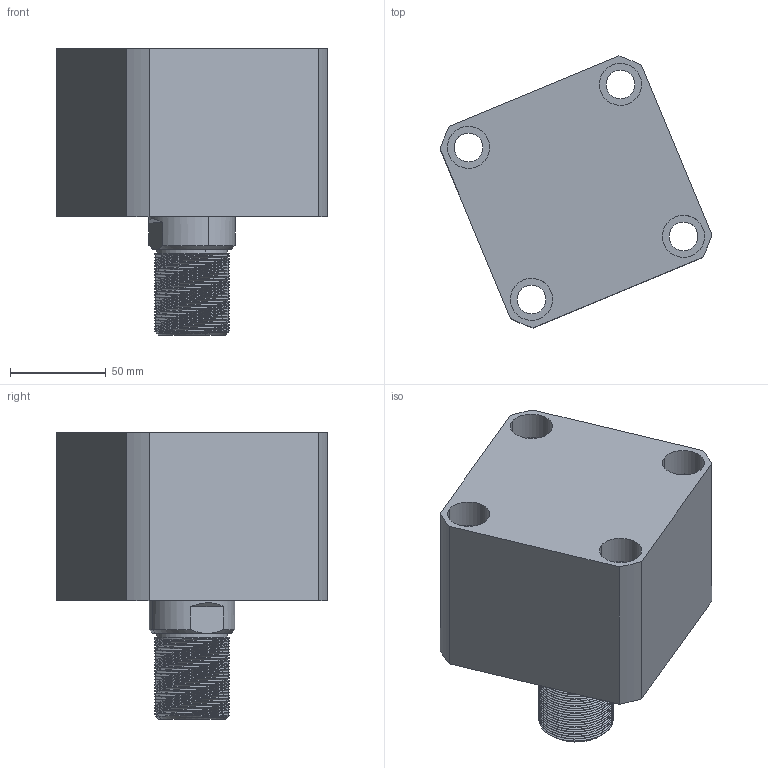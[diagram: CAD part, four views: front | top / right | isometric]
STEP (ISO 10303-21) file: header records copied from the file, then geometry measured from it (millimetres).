
FILE_DESCRIPTION (( 'STEP AP214' ), '1' );
FILE_NAME ('chtb-sd80x10n_asm.STEP', '2018-05-26T09:02:17', ( 'Windows' ), ( 'Microsoft' ), 'SwSTEP 2.0', 'SolidWorks 2015', '' );
FILE_SCHEMA (( 'AUTOMOTIVE_DESIGN' ));
Length unit declared in the file: millimetre
Products named in the file (4): CHTB-SD80X10NHSG; CHTB-SD80X10NBT; CHTB-SD80QG; chtb-sd80x10n_asm
Assembly tree (3 placements, depth 2):
  chtb-sd80x10n_asm
    CHTB-SD80QG
    CHTB-SD80X10NBT
    CHTB-SD80X10NHSG
Bounding box: 142.06 x 142.06 x 150 mm (x, y, z)
Volume: 1064195.1 mm3; surface area: 166544.5 mm2
Topology: 3 solids, 3 shells, 253 faces, 689 edges, 462 vertices
Faces by surface type: cylinder 159, plane 40, cone 20, torus 18, bspline 16
Entity records: 20271 total; most frequent: CARTESIAN_POINT 14293, ORIENTED_EDGE 1370, DIRECTION 1078, EDGE_CURVE 685, VERTEX_POINT 462, AXIS2_PLACEMENT_3D 439, EDGE_LOOP 291, ADVANCED_FACE 253
